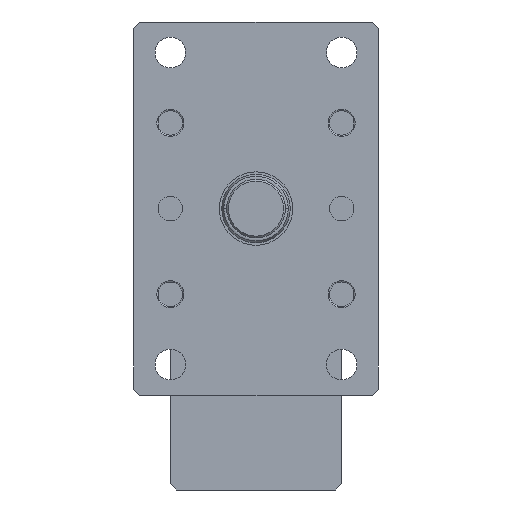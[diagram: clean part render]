
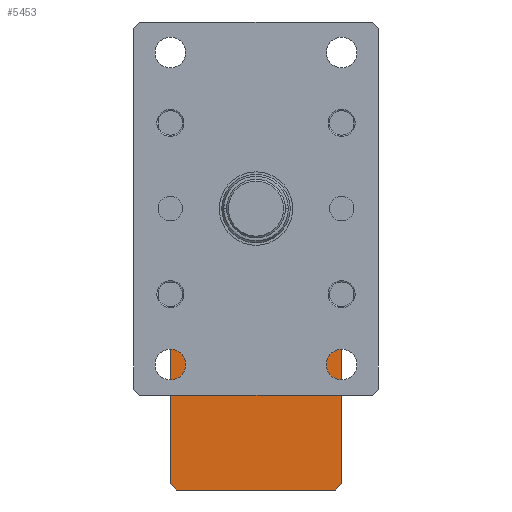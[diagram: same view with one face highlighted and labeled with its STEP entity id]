
A CAD part, left-side view. The second image highlights one B-rep face of the part: STEP entity #5453.
In plain terms, the highlighted planar face has unit normal (-1, 0, 0).
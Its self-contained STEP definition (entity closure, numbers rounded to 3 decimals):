
#197 = LINE ( 'NONE', #2507, #4081 ) ;
#257 = CARTESIAN_POINT ( 'NONE',  ( 377.5, 70., -225. ) ) ;
#427 = CARTESIAN_POINT ( 'NONE',  ( 377.5, -70., -95. ) ) ;
#759 = CARTESIAN_POINT ( 'NONE',  ( 377.5, 70., -230. ) ) ;
#764 = CARTESIAN_POINT ( 'NONE',  ( 377.5, -70., -225. ) ) ;
#863 = CARTESIAN_POINT ( 'NONE',  ( 377.5, 70., -90. ) ) ;
#886 = CARTESIAN_POINT ( 'NONE',  ( 377.5, -65., -230. ) ) ;
#919 = VERTEX_POINT ( 'NONE', #4908 ) ;
#1062 = DIRECTION ( 'NONE',  ( 0., -0.707, -0.707 ) ) ;
#1313 = EDGE_CURVE ( 'NONE', #5196, #7323, #1709, .T. ) ;
#1449 = DIRECTION ( 'NONE',  ( 1., 0., 0. ) ) ;
#1474 = EDGE_CURVE ( 'NONE', #6556, #6912, #197, .T. ) ;
#1491 = LINE ( 'NONE', #427, #4494 ) ;
#1609 = VECTOR ( 'NONE', #1062, 1000. ) ;
#1632 = FACE_OUTER_BOUND ( 'NONE', #6082, .T. ) ;
#1660 = ORIENTED_EDGE ( 'NONE', *, *, #1474, .F. ) ;
#1690 = VERTEX_POINT ( 'NONE', #886 ) ;
#1709 = LINE ( 'NONE', #8194, #5158 ) ;
#1753 = DIRECTION ( 'NONE',  ( 0., 1., 0. ) ) ;
#1768 = DIRECTION ( 'NONE',  ( 0., -0.707, 0.707 ) ) ;
#1822 = LINE ( 'NONE', #5189, #1609 ) ;
#1872 = VERTEX_POINT ( 'NONE', #5650 ) ;
#2037 = LINE ( 'NONE', #6569, #5704 ) ;
#2470 = DIRECTION ( 'NONE',  ( 0., 0.707, 0.707 ) ) ;
#2507 = CARTESIAN_POINT ( 'NONE',  ( 377.5, 70., -230. ) ) ;
#3032 = EDGE_CURVE ( 'NONE', #1690, #5196, #2037, .T. ) ;
#3093 = VECTOR ( 'NONE', #6157, 1000. ) ;
#3362 = ORIENTED_EDGE ( 'NONE', *, *, #7472, .T. ) ;
#3419 = LINE ( 'NONE', #863, #6847 ) ;
#3784 = EDGE_CURVE ( 'NONE', #5192, #6912, #4930, .T. ) ;
#4024 = CARTESIAN_POINT ( 'NONE',  ( 377.5, -70., -95. ) ) ;
#4081 = VECTOR ( 'NONE', #8736, 1000. ) ;
#4174 = ORIENTED_EDGE ( 'NONE', *, *, #3032, .T. ) ;
#4202 = CARTESIAN_POINT ( 'NONE',  ( 377.5, 65., -90. ) ) ;
#4236 = AXIS2_PLACEMENT_3D ( 'NONE', #759, #1449, #6259 ) ;
#4475 = CARTESIAN_POINT ( 'NONE',  ( 377.5, 70., -95. ) ) ;
#4494 = VECTOR ( 'NONE', #2470, 1000. ) ;
#4878 = EDGE_CURVE ( 'NONE', #1690, #919, #5828, .T. ) ;
#4908 = CARTESIAN_POINT ( 'NONE',  ( 377.5, 65., -230. ) ) ;
#4930 = LINE ( 'NONE', #8216, #3093 ) ;
#5114 = ORIENTED_EDGE ( 'NONE', *, *, #3784, .T. ) ;
#5130 = ORIENTED_EDGE ( 'NONE', *, *, #4878, .F. ) ;
#5158 = VECTOR ( 'NONE', #8904, 1000. ) ;
#5189 = CARTESIAN_POINT ( 'NONE',  ( 377.5, 65., -230. ) ) ;
#5192 = VERTEX_POINT ( 'NONE', #4202 ) ;
#5196 = VERTEX_POINT ( 'NONE', #764 ) ;
#5453 = ADVANCED_FACE ( 'NONE', ( #1632 ), #5565, .F. ) ;
#5565 = PLANE ( 'NONE',  #4236 ) ;
#5650 = CARTESIAN_POINT ( 'NONE',  ( 377.5, -65., -90. ) ) ;
#5670 = DIRECTION ( 'NONE',  ( 0., 1., 0. ) ) ;
#5704 = VECTOR ( 'NONE', #1768, 1000. ) ;
#5828 = LINE ( 'NONE', #5868, #7448 ) ;
#5868 = CARTESIAN_POINT ( 'NONE',  ( 377.5, 70., -230. ) ) ;
#6082 = EDGE_LOOP ( 'NONE', ( #7566, #7363, #3362, #5114, #1660, #7227, #5130, #4174 ) ) ;
#6157 = DIRECTION ( 'NONE',  ( 0., 0.707, -0.707 ) ) ;
#6259 = DIRECTION ( 'NONE',  ( 0., 1., 0. ) ) ;
#6556 = VERTEX_POINT ( 'NONE', #257 ) ;
#6569 = CARTESIAN_POINT ( 'NONE',  ( 377.5, -65., -230. ) ) ;
#6847 = VECTOR ( 'NONE', #5670, 1000. ) ;
#6912 = VERTEX_POINT ( 'NONE', #4475 ) ;
#7227 = ORIENTED_EDGE ( 'NONE', *, *, #7650, .T. ) ;
#7323 = VERTEX_POINT ( 'NONE', #4024 ) ;
#7363 = ORIENTED_EDGE ( 'NONE', *, *, #7936, .T. ) ;
#7448 = VECTOR ( 'NONE', #1753, 1000. ) ;
#7472 = EDGE_CURVE ( 'NONE', #1872, #5192, #3419, .T. ) ;
#7566 = ORIENTED_EDGE ( 'NONE', *, *, #1313, .T. ) ;
#7650 = EDGE_CURVE ( 'NONE', #6556, #919, #1822, .T. ) ;
#7936 = EDGE_CURVE ( 'NONE', #7323, #1872, #1491, .T. ) ;
#8194 = CARTESIAN_POINT ( 'NONE',  ( 377.5, -70., -230. ) ) ;
#8216 = CARTESIAN_POINT ( 'NONE',  ( 377.5, 70., -95. ) ) ;
#8736 = DIRECTION ( 'NONE',  ( 0., 0., 1. ) ) ;
#8904 = DIRECTION ( 'NONE',  ( 0., 0., 1. ) ) ;
